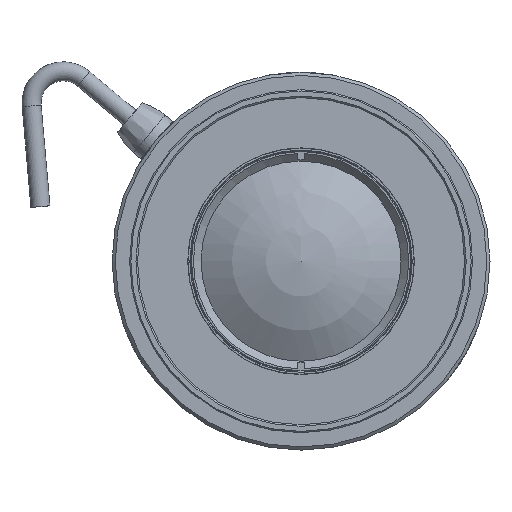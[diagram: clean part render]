
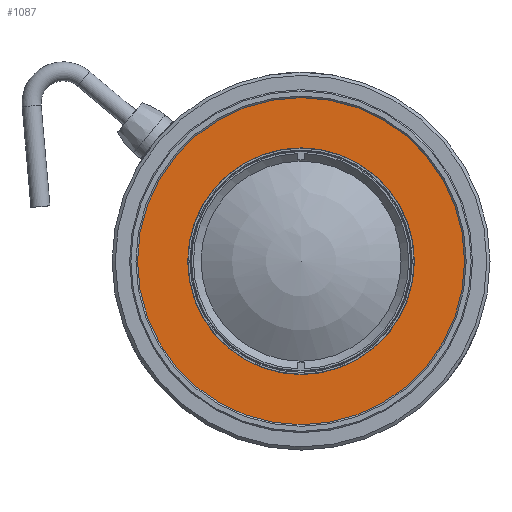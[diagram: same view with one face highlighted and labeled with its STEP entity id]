
A CAD part, front view. The second image highlights one B-rep face of the part: STEP entity #1087.
In plain terms, the highlighted planar face has unit normal (0, -1, 0).
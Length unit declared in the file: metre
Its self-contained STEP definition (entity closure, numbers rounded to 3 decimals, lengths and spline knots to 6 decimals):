
#1087=ADVANCED_FACE('0:57',(#2992,#2993),#2994,.T.);
#2115=EDGE_CURVE('0:915',#4581,#4581,#4582,.T.);
#2117=EDGE_CURVE('0:912',#4584,#4584,#4585,.T.);
#2992=FACE_OUTER_BOUND('',#5591,.T.);
#2993=FACE_BOUND('',#5592,.T.);
#2994=PLANE('',#5593);
#4581=VERTEX_POINT('',#7875);
#4582=CIRCLE('',#7876,0.026);
#4584=VERTEX_POINT('',#7879);
#4585=CIRCLE('',#7880,0.01785);
#5591=EDGE_LOOP('',(#9879));
#5592=EDGE_LOOP('',(#9880));
#5593=AXIS2_PLACEMENT_3D('',#9881,#9882,#9883);
#7875=CARTESIAN_POINT('',(0.0,-0.076838,-0.026));
#7876=AXIS2_PLACEMENT_3D('',#11949,#11950,#11951);
#7879=CARTESIAN_POINT('',(0.0,-0.076838,-0.01785));
#7880=AXIS2_PLACEMENT_3D('',#11952,#11953,#11954);
#9879=ORIENTED_EDGE('',*,*,#2115,.T.);
#9880=ORIENTED_EDGE('',*,*,#2117,.F.);
#9881=CARTESIAN_POINT('',(0.0,-0.076838,0.01785));
#9882=DIRECTION('',(0.0,-1.0,0.));
#9883=DIRECTION('',(-1.0,0.0,0.0));
#11949=CARTESIAN_POINT('',(0.0,-0.076838,0.));
#11950=DIRECTION('',(0.0,-1.0,0.));
#11951=DIRECTION('',(0.0,0.,-1.0));
#11952=CARTESIAN_POINT('',(0.0,-0.076838,0.));
#11953=DIRECTION('',(0.0,-1.0,0.));
#11954=DIRECTION('',(0.0,0.,-1.0));
